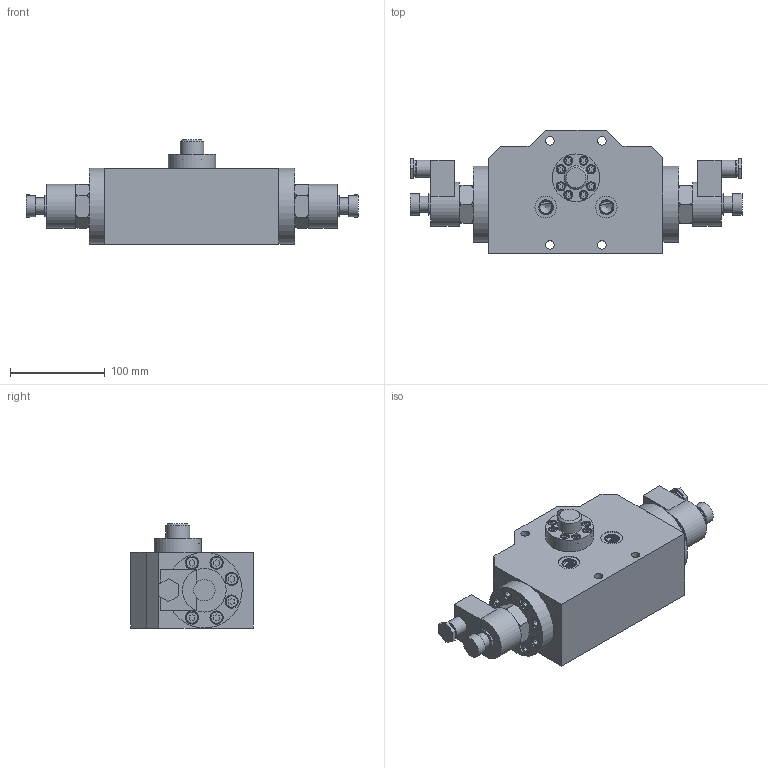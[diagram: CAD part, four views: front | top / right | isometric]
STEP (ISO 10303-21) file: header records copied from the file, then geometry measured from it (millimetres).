
FILE_DESCRIPTION(/* description */ (''),/* implementation_level */ '2;1');
FILE_NAME(/* name */ '数字5.prt.stp',/* time_stamp */ '2023-05-03T15:14:32+08:00',/* author */ (''),/* organization */ (''),/* preprocessor_version */ 'ST-DEVELOPER v16.7',/* originating_system */ 'SIEMENS PLM Software NX 12.0',/* authorisation */ '');
FILE_SCHEMA (('AUTOMOTIVE_DESIGN { 1 0 10303 214 3 1 1 1 }'));
Length unit declared in the file: millimetre
Products named in the file (1): 数字5
Bounding box: 351.02 x 130 x 110 mm (x, y, z)
Volume: 2206197.3 mm3; surface area: 260240.5 mm2
Topology: 51 solids, 51 shells, 807 faces, 1931 edges, 1277 vertices
Faces by surface type: plane 474, cylinder 200, torus 72, cone 52, bspline 9
Full cylindrical faces by diameter (mm): 4.2 x8, 5 x8, 5.5 x8, 6.8 x16, 8 x16, 8.5 x8, 9 x20, 9.5 x8, 13 x16, 14 x16, 16 x2, 16.666 x2, 18 x4, 22.666 x4, 23 x2, 25.101 x2, 26 x1, 46.188 x2, 50.299 x1, 80 x2
Entity records: 39606 total; most frequent: CARTESIAN_POINT 21794, DIRECTION 3571, ORIENTED_EDGE 3130, EDGE_CURVE 1565, AXIS2_PLACEMENT_3D 1341, EDGE_LOOP 1210, VERTEX_POINT 1184, LINE 889
